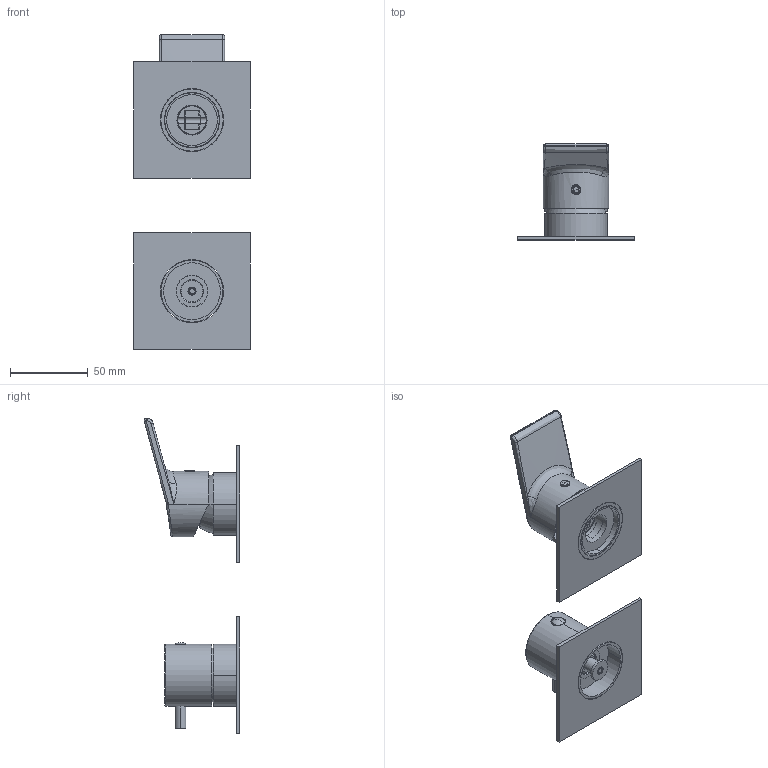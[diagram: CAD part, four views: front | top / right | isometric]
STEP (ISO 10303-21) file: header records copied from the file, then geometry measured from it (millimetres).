
FILE_DESCRIPTION((''),'2;1');
FILE_NAME('3D_SW0002','2025-10-02T10:36:32',('volponeff'),(''),'CREO PARAMETRIC BY PTC INC, 2022014','CREO PARAMETRIC BY PTC INC, 2022014','');
FILE_SCHEMA(('CONFIG_CONTROL_DESIGN'));
Length unit declared in the file: millimetre
Products named in the file (1): 3D_SW0002
Bounding box: 75 x 61.47 x 202.5 mm (x, y, z)
Volume: 84455.8 mm3; surface area: 71936.3 mm2
Topology: 8 solids, 8 shells, 926 faces, 2531 edges, 1634 vertices
Faces by surface type: cylinder 338, plane 271, bspline 96, cone 76, torus 70, extrusion 64, sphere 11
Entity records: 167879 total; most frequent: CARTESIAN_POINT 145633, ORIENTED_EDGE 5046, DIRECTION 4017, EDGE_CURVE 2523, VERTEX_POINT 1634, AXIS2_PLACEMENT_3D 1431, VECTOR 1155, LINE 1091
